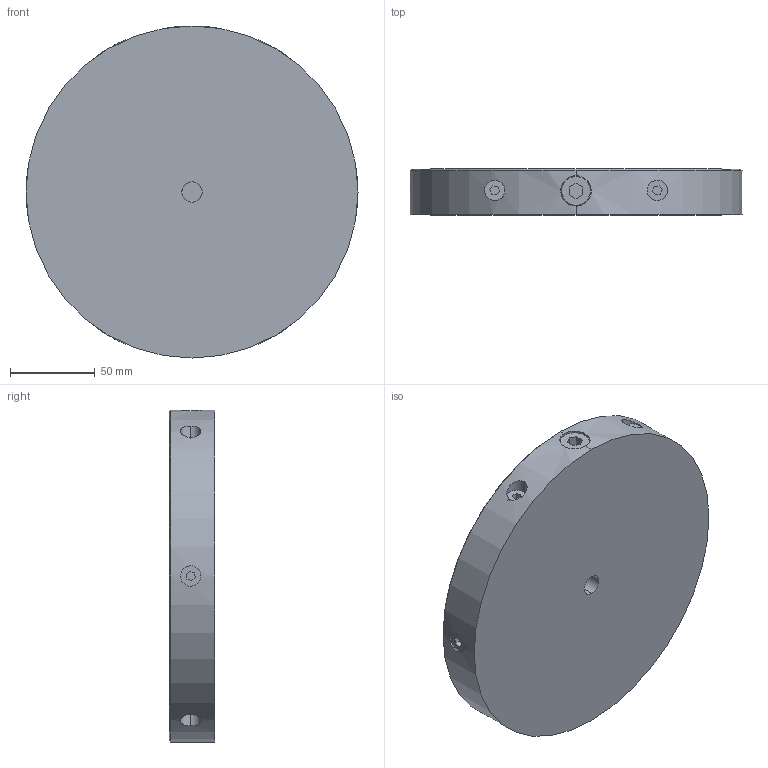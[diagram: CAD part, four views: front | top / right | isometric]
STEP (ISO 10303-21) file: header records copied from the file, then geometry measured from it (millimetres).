
FILE_DESCRIPTION (( 'STEP AP203' ), '1' );
FILE_NAME ('45820.STEP', '2018-10-29T09:59:37', ( '' ), ( '' ), 'SwSTEP 2.0', 'SolidWorks 2015', '' );
FILE_SCHEMA (( 'CONFIG_CONTROL_DESIGN' ));
Length unit declared in the file: millimetre
Products named in the file (1): 45820
Bounding box: 196 x 27 x 196 mm (x, y, z)
Volume: 727401.7 mm3; surface area: 106083.4 mm2
Topology: 8 solids, 8 shells, 173 faces, 417 edges, 259 vertices
Faces by surface type: plane 73, cylinder 62, cone 30, torus 8
Entity records: 6363 total; most frequent: CARTESIAN_POINT 2315, ORIENTED_EDGE 834, DIRECTION 799, EDGE_CURVE 417, AXIS2_PLACEMENT_3D 286, VERTEX_POINT 259, VECTOR 227, LINE 227
